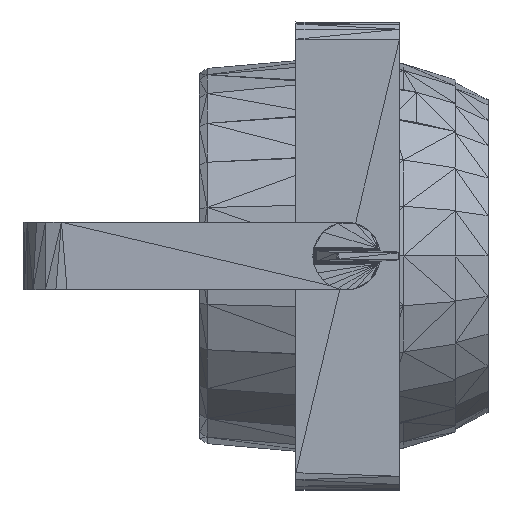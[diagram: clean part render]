
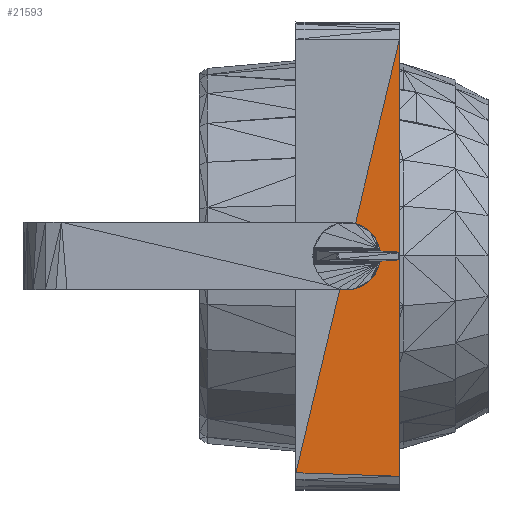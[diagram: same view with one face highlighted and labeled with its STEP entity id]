
A CAD part, left-side view. The second image highlights one B-rep face of the part: STEP entity #21593.
In plain terms, the highlighted planar face has unit normal (-1, -0.006, -0.001).
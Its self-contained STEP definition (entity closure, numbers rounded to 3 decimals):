
#1503=FACE_OUTER_BOUND('',#3276,.T.);
#3276=EDGE_LOOP('',(#17351,#17352,#17353,#17354,#17355,#17356,#17357,#17358,
#17359,#17360,#17361,#17362,#17363,#17364,#17365,#17366));
#5826=LINE('',#34536,#8581);
#5828=LINE('',#34540,#8583);
#5837=LINE('',#34557,#8592);
#5838=LINE('',#34560,#8593);
#5840=LINE('',#34564,#8595);
#5846=LINE('',#34576,#8601);
#5852=LINE('',#34588,#8607);
#5854=LINE('',#34592,#8609);
#5856=LINE('',#34596,#8611);
#5858=LINE('',#34600,#8613);
#5861=LINE('',#34606,#8616);
#5863=LINE('',#34609,#8618);
#5864=LINE('',#34612,#8619);
#5865=LINE('',#34614,#8620);
#5866=LINE('',#34616,#8621);
#5867=LINE('',#34617,#8622);
#8581=VECTOR('',#28853,10.);
#8583=VECTOR('',#28857,10.);
#8592=VECTOR('',#28874,10.);
#8593=VECTOR('',#28877,10.);
#8595=VECTOR('',#28881,10.);
#8601=VECTOR('',#28895,10.);
#8607=VECTOR('',#28907,10.);
#8609=VECTOR('',#28911,10.);
#8611=VECTOR('',#28915,10.);
#8613=VECTOR('',#28919,10.);
#8616=VECTOR('',#28926,10.);
#8618=VECTOR('',#28930,10.);
#8619=VECTOR('',#28933,10.);
#8620=VECTOR('',#28934,10.);
#8621=VECTOR('',#28935,10.);
#8622=VECTOR('',#28936,10.);
#9888=VERTEX_POINT('',#34533);
#9889=VERTEX_POINT('',#34535);
#9890=VERTEX_POINT('',#34539);
#9893=VERTEX_POINT('',#34553);
#9894=VERTEX_POINT('',#34555);
#9895=VERTEX_POINT('',#34559);
#9896=VERTEX_POINT('',#34563);
#9898=VERTEX_POINT('',#34575);
#9901=VERTEX_POINT('',#34587);
#9902=VERTEX_POINT('',#34591);
#9903=VERTEX_POINT('',#34595);
#9904=VERTEX_POINT('',#34599);
#9905=VERTEX_POINT('',#34605);
#9906=VERTEX_POINT('',#34611);
#9907=VERTEX_POINT('',#34613);
#9908=VERTEX_POINT('',#34615);
#12302=EDGE_CURVE('',#9889,#9888,#5826,.T.);
#12304=EDGE_CURVE('',#9890,#9889,#5828,.T.);
#12313=EDGE_CURVE('',#9893,#9894,#5837,.T.);
#12314=EDGE_CURVE('',#9894,#9895,#5838,.T.);
#12316=EDGE_CURVE('',#9895,#9896,#5840,.T.);
#12322=EDGE_CURVE('',#9898,#9890,#5846,.T.);
#12328=EDGE_CURVE('',#9896,#9901,#5852,.T.);
#12330=EDGE_CURVE('',#9901,#9902,#5854,.T.);
#12332=EDGE_CURVE('',#9902,#9903,#5856,.T.);
#12334=EDGE_CURVE('',#9903,#9904,#5858,.T.);
#12337=EDGE_CURVE('',#9905,#9898,#5861,.T.);
#12339=EDGE_CURVE('',#9904,#9905,#5863,.T.);
#12340=EDGE_CURVE('',#9888,#9906,#5864,.T.);
#12341=EDGE_CURVE('',#9907,#9906,#5865,.T.);
#12342=EDGE_CURVE('',#9907,#9908,#5866,.T.);
#12343=EDGE_CURVE('',#9908,#9893,#5867,.T.);
#17351=ORIENTED_EDGE('',*,*,#12313,.T.);
#17352=ORIENTED_EDGE('',*,*,#12314,.T.);
#17353=ORIENTED_EDGE('',*,*,#12316,.T.);
#17354=ORIENTED_EDGE('',*,*,#12328,.T.);
#17355=ORIENTED_EDGE('',*,*,#12330,.T.);
#17356=ORIENTED_EDGE('',*,*,#12332,.T.);
#17357=ORIENTED_EDGE('',*,*,#12334,.T.);
#17358=ORIENTED_EDGE('',*,*,#12339,.T.);
#17359=ORIENTED_EDGE('',*,*,#12337,.T.);
#17360=ORIENTED_EDGE('',*,*,#12322,.T.);
#17361=ORIENTED_EDGE('',*,*,#12304,.T.);
#17362=ORIENTED_EDGE('',*,*,#12302,.T.);
#17363=ORIENTED_EDGE('',*,*,#12340,.T.);
#17364=ORIENTED_EDGE('',*,*,#12341,.F.);
#17365=ORIENTED_EDGE('',*,*,#12342,.T.);
#17366=ORIENTED_EDGE('',*,*,#12343,.T.);
#19820=PLANE('',#23417);
#21593=ADVANCED_FACE('',(#1503),#19820,.T.);
#23417=AXIS2_PLACEMENT_3D('',#34610,#28931,#28932);
#28853=DIRECTION('',(-0.006,0.924,0.383));
#28857=DIRECTION('',(-0.006,0.924,0.383));
#28874=DIRECTION('',(0.006,-0.966,-0.259));
#28877=DIRECTION('',(0.006,-0.866,-0.5));
#28881=DIRECTION('',(0.005,-0.608,-0.794));
#28895=DIRECTION('',(-0.005,0.966,-0.259));
#28907=DIRECTION('',(0.003,-0.383,-0.924));
#28911=DIRECTION('',(0.001,0.,-1.));
#28915=DIRECTION('',(0.,0.259,-0.966));
#28919=DIRECTION('',(-0.002,0.608,-0.794));
#28926=DIRECTION('',(-0.005,0.966,-0.259));
#28930=DIRECTION('',(-0.003,0.707,-0.707));
#28931=DIRECTION('center_axis',(-1.,-0.006,
-0.001));
#28932=DIRECTION('ref_axis',(-0.001,0.,1.));
#28933=DIRECTION('',(0.,0.232,-0.973));
#28934=DIRECTION('',(-0.006,0.999,0.035));
#28935=DIRECTION('',(-0.001,0.,1.));
#28936=DIRECTION('',(0.,0.232,-0.973));
#34533=CARTESIAN_POINT('',(-189.747,-257.096,-22.872));
#34535=CARTESIAN_POINT('',(-189.723,-260.903,-24.448));
#34536=CARTESIAN_POINT('',(-189.824,-244.695,-17.735));
#34539=CARTESIAN_POINT('',(-189.716,-262.055,-24.926));
#34540=CARTESIAN_POINT('',(-189.824,-244.665,-17.722));
#34553=CARTESIAN_POINT('',(-189.747,-268.13,23.357));
#34555=CARTESIAN_POINT('',(-189.711,-274.131,21.746));
#34557=CARTESIAN_POINT('',(-189.74,-269.218,23.065));
#34559=CARTESIAN_POINT('',(-189.706,-274.848,21.333));
#34560=CARTESIAN_POINT('',(-189.833,-255.143,32.699));
#34563=CARTESIAN_POINT('',(-189.625,-285.765,7.087));
#34564=CARTESIAN_POINT('',(-189.929,-244.827,60.511));
#34575=CARTESIAN_POINT('',(-189.654,-273.778,-21.785));
#34576=CARTESIAN_POINT('',(-189.445,-313.178,-11.227));
#34587=CARTESIAN_POINT('',(-189.622,-286.179,6.087));
#34588=CARTESIAN_POINT('',(-189.867,-258.626,72.511));
#34591=CARTESIAN_POINT('',(-189.605,-286.178,-6.096));
#34592=CARTESIAN_POINT('',(-189.732,-286.188,87.896));
#34595=CARTESIAN_POINT('',(-189.605,-285.994,-6.783));
#34596=CARTESIAN_POINT('',(-189.591,-308.646,77.751));
#34599=CARTESIAN_POINT('',(-189.648,-275.054,-21.05));
#34600=CARTESIAN_POINT('',(-189.427,-331.682,52.802));
#34605=CARTESIAN_POINT('',(-189.65,-274.518,-21.586));
#34606=CARTESIAN_POINT('',(-189.446,-313.142,-11.243));
#34609=CARTESIAN_POINT('',(-189.386,-335.897,39.843));
#34610=CARTESIAN_POINT('Origin',(-189.747,-304.506,175.776));
#34611=CARTESIAN_POINT('',(-189.747,-220.604,-175.776));
#34612=CARTESIAN_POINT('',(-189.747,-304.506,175.776));
#34613=CARTESIAN_POINT('',(-189.268,-304.506,-178.674));
#34614=CARTESIAN_POINT('',(-189.268,-304.506,-178.674));
#34615=CARTESIAN_POINT('',(-189.747,-304.506,175.776));
#34616=CARTESIAN_POINT('',(-189.268,-304.506,-178.674));
#34617=CARTESIAN_POINT('',(-189.747,-304.506,175.776));
